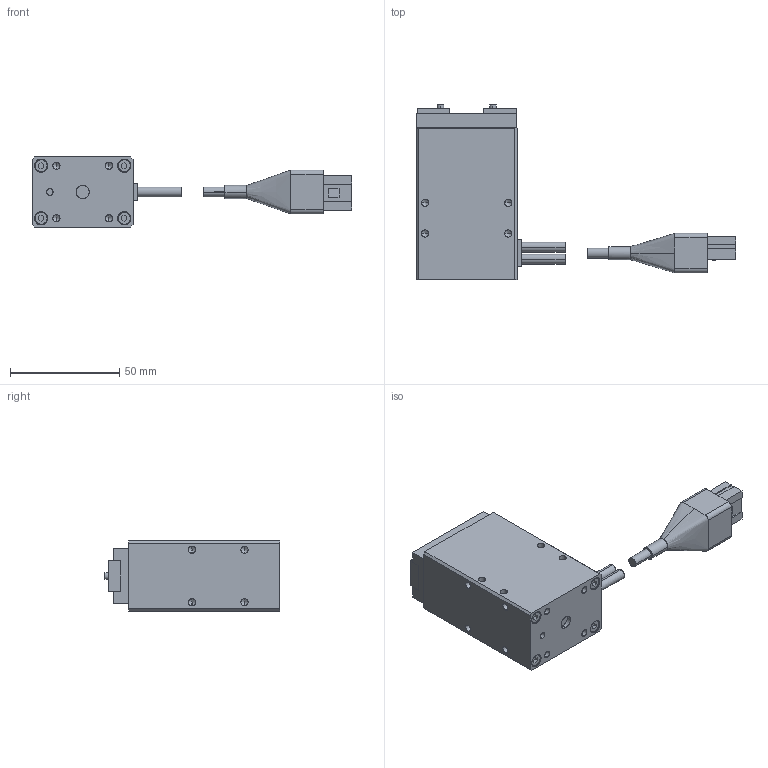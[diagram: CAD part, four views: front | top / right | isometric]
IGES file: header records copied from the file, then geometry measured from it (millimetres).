
Start section: SolidWorks IGES file using analytic representation for surfaces
Global section: file name: G:\SW2007図面\TAIYO\電動機器３Ｄ\電動グリッパ　２爪\ESG1-SS-2815.IGS; native system: SolidWorks 2007; preprocessor: SolidWorks 2007; author: 風音庵,,1; organization: 1; date: 090212.173020; units: millimetre
Bounding box: 145.89 x 80 x 32 mm (x, y, z)
Surface area: 26290.2 mm2 (no closed solid volume)
Topology: 0 solids, 0 shells, 330 faces, 3298 edges, 3258 vertices
Faces by surface type: bspline 202, revolution 128
